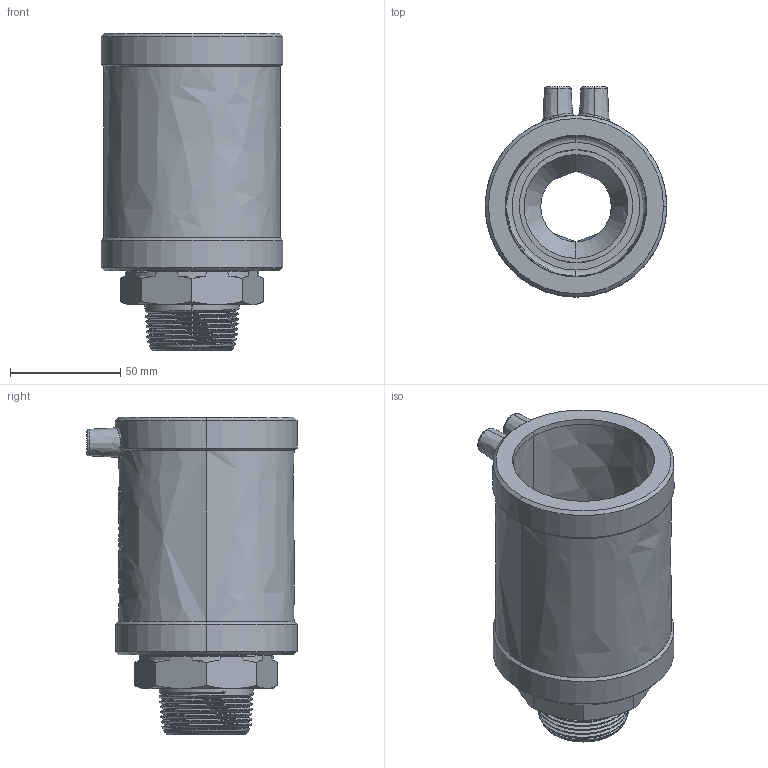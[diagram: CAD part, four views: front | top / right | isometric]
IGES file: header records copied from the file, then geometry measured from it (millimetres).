
Start section:  PTC IGES file: mun_d63_1_1-4_01.igs
Global section: file name: mun_d63_1_1-4_01.igs; native system: Pro/ENGINEER by Parametric Technology Corporation; preprocessor: 2011490; author: mtunjic; organization: Unknown; date: 20130823.150241; units: millimetre
Bounding box: 82.5 x 95.45 x 144.26 mm (x, y, z)
Surface area: 69997.4 mm2 (no closed solid volume)
Topology: 0 solids, 0 shells, 256 faces, 1334 edges, 1334 vertices
Faces by surface type: bspline 256
